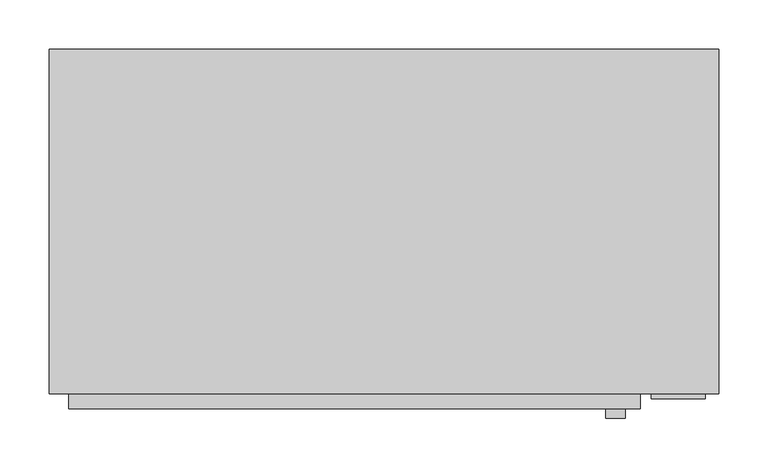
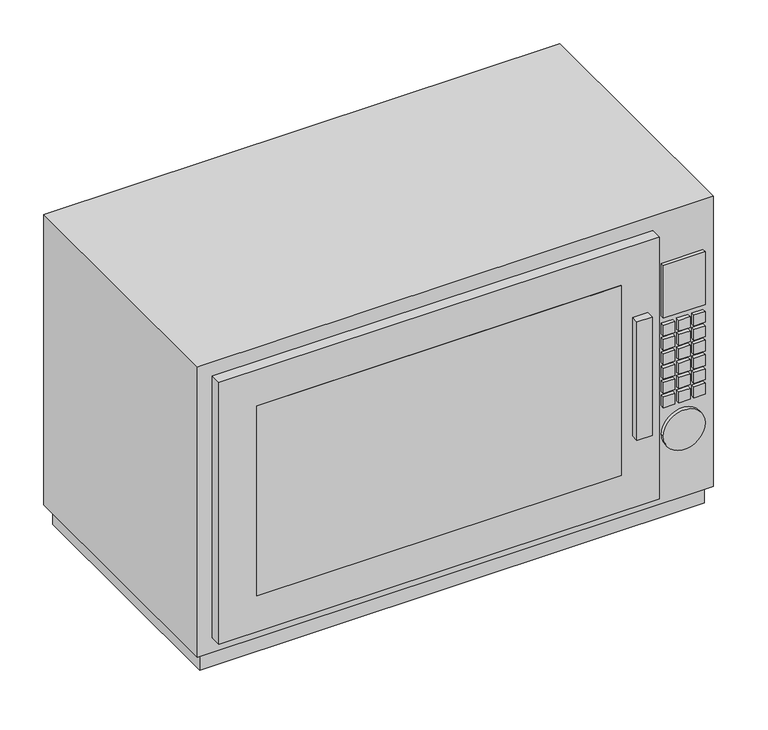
"""IFC4 building model written with IfcOpenShell, lengths in millimetres: proxy geometry, BIMHealth-Microwave-LOD2A-v1 : BIMHealth-Microwave-LOD2A-v1."""

from ifc_helpers import new_model, si_unit, point, frame, frame_2d, origin, origin_with_axes, place, context, project, spatial, polyline, circle_curve, trimmed, segment, composite_curve, outline, extrude, source, transform, mapped, element, save


def generic_models_e545678d(model_context):
    return source(origin(), model_context, "Body", "SweptSolid", [
        extrude(outline(polyline([(585.0, -375.0), (565.0, -375.0), (565.0, -365.0), (585.0, -365.0), (585.0, -375.0)])), frame((0.0, 0.0, 145.0), z_axis=(0.0, 0.0, 1.0), x_axis=(1.0, 0.0, 0.0)), (0.0, 0.0, 1.0), 165.0),
        extrude(outline(polyline([(666.5180077, -355.0), (611.5180077, -355.0), (611.5180077, -350.0), (666.5180077, -350.0), (666.5180077, -355.0)])), frame((0.0, 0.0, 286.7914818), z_axis=(0.0, 0.0, 1.0), x_axis=(1.0, 0.0, 0.0)), (0.0, 0.0, 1.0), 73.2085182),
        extrude(outline(composite_curve([segment(trimmed(circle_curve(frame_2d((121.7914818, 639.0180077)), 27.5), [point((121.7914818, 611.5180077))], [point((121.7914818, 666.5180077))], False, "CARTESIAN"), True, "CONTINUOUS"), segment(trimmed(circle_curve(frame_2d((121.7914818, 639.0180077)), 27.5), [point((121.7914818, 666.5180077))], [point((121.7914818, 611.5180077))], False, "CARTESIAN"), True, "CONTINUOUS")], self_intersect=False)), frame((0.0, -355.0, 0.0), z_axis=(0.0, 1.0, 0.0), x_axis=(0.0, 0.0, 1.0)), (0.0, 0.0, 1.0), 5.0),
        extrude(outline(polyline([(666.5180077, -355.0), (651.5180077, -355.0), (651.5180077, -350.0), (666.5180077, -350.0), (666.5180077, -355.0)])), frame((0.0, 0.0, 161.7914818), z_axis=(0.0, 0.0, 1.0), x_axis=(1.0, 0.0, 0.0)), (0.0, 0.0, 1.0), 15.0),
        extrude(outline(polyline([(646.5180077, -355.0), (631.5180077, -355.0), (631.5180077, -350.0), (646.5180077, -350.0), (646.5180077, -355.0)])), frame((0.0, 0.0, 161.7914818), z_axis=(0.0, 0.0, 1.0), x_axis=(1.0, 0.0, 0.0)), (0.0, 0.0, 1.0), 15.0),
        extrude(outline(polyline([(626.5180077, -355.0), (611.5180077, -355.0), (611.5180077, -350.0), (626.5180077, -350.0), (626.5180077, -355.0)])), frame((0.0, 0.0, 161.7914818), z_axis=(0.0, 0.0, 1.0), x_axis=(1.0, 0.0, 0.0)), (0.0, 0.0, 1.0), 15.0),
        extrude(outline(polyline([(666.5180077, -355.0), (651.5180077, -355.0), (651.5180077, -350.0), (666.5180077, -350.0), (666.5180077, -355.0)])), frame((0.0, 0.0, 181.7914818), z_axis=(0.0, 0.0, 1.0), x_axis=(1.0, 0.0, 0.0)), (0.0, 0.0, 1.0), 15.0),
        extrude(outline(polyline([(646.5180077, -355.0), (631.5180077, -355.0), (631.5180077, -350.0), (646.5180077, -350.0), (646.5180077, -355.0)])), frame((0.0, 0.0, 181.7914818), z_axis=(0.0, 0.0, 1.0), x_axis=(1.0, 0.0, 0.0)), (0.0, 0.0, 1.0), 15.0),
        extrude(outline(polyline([(626.5180077, -355.0), (611.5180077, -355.0), (611.5180077, -350.0), (626.5180077, -350.0), (626.5180077, -355.0)])), frame((0.0, 0.0, 181.7914818), z_axis=(0.0, 0.0, 1.0), x_axis=(1.0, 0.0, 0.0)), (0.0, 0.0, 1.0), 15.0),
        extrude(outline(polyline([(666.5180077, -355.0), (651.5180077, -355.0), (651.5180077, -350.0), (666.5180077, -350.0), (666.5180077, -355.0)])), frame((0.0, 0.0, 201.7914818), z_axis=(0.0, 0.0, 1.0), x_axis=(1.0, 0.0, 0.0)), (0.0, 0.0, 1.0), 15.0),
        extrude(outline(polyline([(646.5180077, -355.0), (631.5180077, -355.0), (631.5180077, -350.0), (646.5180077, -350.0), (646.5180077, -355.0)])), frame((0.0, 0.0, 201.7914818), z_axis=(0.0, 0.0, 1.0), x_axis=(1.0, 0.0, 0.0)), (0.0, 0.0, 1.0), 15.0),
        extrude(outline(polyline([(626.5180077, -355.0), (611.5180077, -355.0), (611.5180077, -350.0), (626.5180077, -350.0), (626.5180077, -355.0)])), frame((0.0, 0.0, 201.7914818), z_axis=(0.0, 0.0, 1.0), x_axis=(1.0, 0.0, 0.0)), (0.0, 0.0, 1.0), 15.0),
        extrude(outline(polyline([(666.5180077, -355.0), (651.5180077, -355.0), (651.5180077, -350.0), (666.5180077, -350.0), (666.5180077, -355.0)])), frame((0.0, 0.0, 221.7914818), z_axis=(0.0, 0.0, 1.0), x_axis=(1.0, 0.0, 0.0)), (0.0, 0.0, 1.0), 15.0),
        extrude(outline(polyline([(646.5180077, -355.0), (631.5180077, -355.0), (631.5180077, -350.0), (646.5180077, -350.0), (646.5180077, -355.0)])), frame((0.0, 0.0, 221.7914818), z_axis=(0.0, 0.0, 1.0), x_axis=(1.0, 0.0, 0.0)), (0.0, 0.0, 1.0), 15.0),
        extrude(outline(polyline([(626.5180077, -355.0), (611.5180077, -355.0), (611.5180077, -350.0), (626.5180077, -350.0), (626.5180077, -355.0)])), frame((0.0, 0.0, 221.7914818), z_axis=(0.0, 0.0, 1.0), x_axis=(1.0, 0.0, 0.0)), (0.0, 0.0, 1.0), 15.0),
        extrude(outline(polyline([(666.5180077, -355.0), (651.5180077, -355.0), (651.5180077, -350.0), (666.5180077, -350.0), (666.5180077, -355.0)])), frame((0.0, 0.0, 241.7914818), z_axis=(0.0, 0.0, 1.0), x_axis=(1.0, 0.0, 0.0)), (0.0, 0.0, 1.0), 15.0),
        extrude(outline(polyline([(646.5180077, -355.0), (631.5180077, -355.0), (631.5180077, -350.0), (646.5180077, -350.0), (646.5180077, -355.0)])), frame((0.0, 0.0, 241.7914818), z_axis=(0.0, 0.0, 1.0), x_axis=(1.0, 0.0, 0.0)), (0.0, 0.0, 1.0), 15.0),
        extrude(outline(polyline([(626.5180077, -355.0), (611.5180077, -355.0), (611.5180077, -350.0), (626.5180077, -350.0), (626.5180077, -355.0)])), frame((0.0, 0.0, 241.7914818), z_axis=(0.0, 0.0, 1.0), x_axis=(1.0, 0.0, 0.0)), (0.0, 0.0, 1.0), 15.0),
        extrude(outline(polyline([(666.5180077, -355.0), (651.5180077, -355.0), (651.5180077, -350.0), (666.5180077, -350.0), (666.5180077, -355.0)])), frame((0.0, 0.0, 261.7914818), z_axis=(0.0, 0.0, 1.0), x_axis=(1.0, 0.0, 0.0)), (0.0, 0.0, 1.0), 15.0),
        extrude(outline(polyline([(646.5180077, -355.0), (631.5180077, -355.0), (631.5180077, -350.0), (646.5180077, -350.0), (646.5180077, -355.0)])), frame((0.0, 0.0, 261.7914818), z_axis=(0.0, 0.0, 1.0), x_axis=(1.0, 0.0, 0.0)), (0.0, 0.0, 1.0), 15.0),
        extrude(outline(polyline([(626.5180077, -355.0), (611.5180077, -355.0), (611.5180077, -350.0), (626.5180077, -350.0), (626.5180077, -355.0)])), frame((0.0, 0.0, 261.7914818), z_axis=(0.0, 0.0, 1.0), x_axis=(1.0, 0.0, 0.0)), (0.0, 0.0, 1.0), 15.0),
        extrude(outline(polyline([(550.0, -365.0), (70.0, -365.0), (70.0, -350.0), (550.0, -350.0), (550.0, -365.0)])), frame((0.0, 0.0, 95.0), z_axis=(0.0, 0.0, 1.0), x_axis=(1.0, 0.0, 0.0)), (0.0, 0.0, 1.0), 265.0),
        extrude(outline(polyline([(672.5, -7.5), (672.5, -342.5), (7.5, -342.5), (7.5, -7.5), (672.5, -7.5)])), origin_with_axes(), (0.0, 0.0, 1.0), 25.0),
        extrude(outline(polyline([(430.0, 680.0), (430.0, 0.0), (25.0, 0.0), (25.0, 680.0), (430.0, 680.0)]), holes=[polyline([(410.0, 20.0), (410.0, 600.0), (45.0, 600.0), (45.0, 20.0), (410.0, 20.0)])]), frame((0.0, -350.0, 0.0), z_axis=(0.0, 1.0, 0.0), x_axis=(0.0, 0.0, 1.0)), (0.0, 0.0, 1.0), 350.0),
        extrude(outline(polyline([(410.0, 600.0), (410.0, 20.0), (45.0, 20.0), (45.0, 600.0), (410.0, 600.0)]), holes=[polyline([(360.0, 550.0), (95.0, 550.0), (95.0, 70.0), (360.0, 70.0), (360.0, 550.0)])]), frame((0.0, -365.0, 0.0), z_axis=(0.0, 1.0, 0.0), x_axis=(0.0, 0.0, 1.0)), (0.0, 0.0, 1.0), 15.0),
    ])


if __name__ == "__main__":
    model = new_model("IFC4")
    model_context = context("Model", 3, world=origin())
    ifc_project = project(units=[si_unit("LENGTHUNIT", "METRE", prefix="MILLI")], contexts=[model_context])
    site = spatial("IfcSite", under=ifc_project)
    building = spatial("IfcBuilding", under=site)
    placement = place(None, origin())
    generic_models_shape = generic_models_e545678d(model_context)
    element("IfcBuildingElementProxy", 1, Name="BIMHealth-Microwave-LOD2A-v1 : BIMHealth-Microwave-LOD2A-v1", ObjectType="BIMHealth-Microwave-LOD2A-v1 : BIMHealth-Microwave-LOD2A-v1", at=placement, inside=building, context=model_context, shape_type="MappedRepresentation", body=[
        mapped(generic_models_shape, transform((0.0, 0.0, 0.0), x_axis=(1.0, 0.0, 0.0), y_axis=(0.0, 1.0, 0.0), z_axis=(0.0, 0.0, 1.0))),
    ])
    save(model, "model.ifc")
